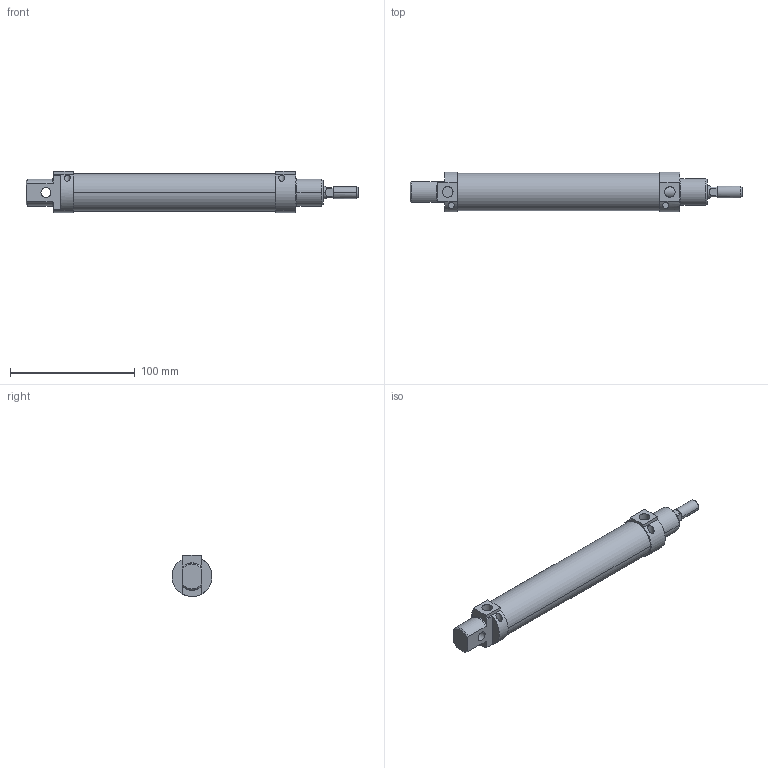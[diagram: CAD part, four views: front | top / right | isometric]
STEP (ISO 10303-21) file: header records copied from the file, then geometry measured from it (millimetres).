
FILE_DESCRIPTION(('CATIA V5 STEP Exchange'),'2;1');
FILE_NAME('D:\stp file for catalog\PSN\25\PSN-25-10-125.stp','2018-04-29T05:03:19+00:00',('none'),('none'),'CATIA Version 5-6 Release 2016','CATIA V5 STEP AP203','none');
FILE_SCHEMA(('CONFIG_CONTROL_DESIGN'));
Length unit declared in the file: millimetre
Products named in the file (1): PSN-25-10-125-00
Assembly tree (2 placements, depth 2):
  PSN-25-10-125-00
    #57
    #2060
Bounding box: 266 x 32 x 33 mm (x, y, z)
Volume: 95294.6 mm3; surface area: 50541.8 mm2
Topology: 2 solids, 2 shells, 104 faces, 246 edges, 160 vertices
Faces by surface type: plane 52, cylinder 46, cone 6
Entity records: 2883 total; most frequent: CARTESIAN_POINT 631, ORIENTED_EDGE 492, DIRECTION 342, EDGE_CURVE 246, AXIS2_PLACEMENT_3D 169, VERTEX_POINT 160, EDGE_LOOP 122, VECTOR 116
